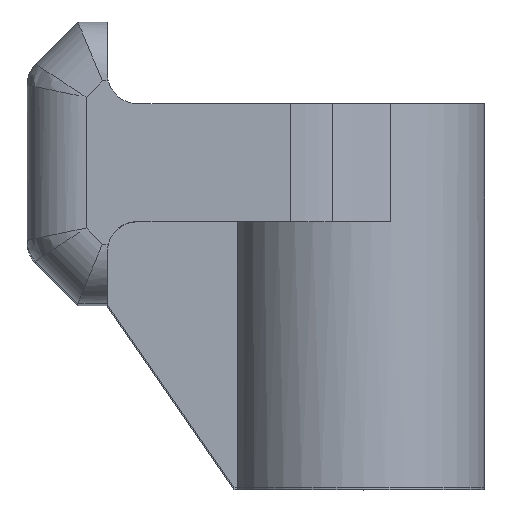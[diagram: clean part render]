
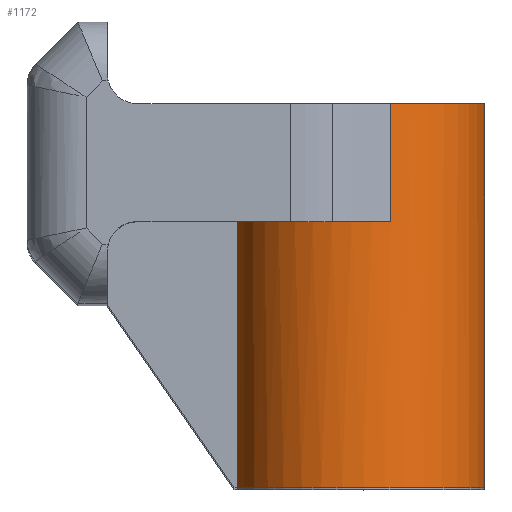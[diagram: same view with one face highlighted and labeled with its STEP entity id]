
A CAD part, top view. The second image highlights one B-rep face of the part: STEP entity #1172.
In plain terms, the highlighted cylindrical face has radius 4.25 mm (diameter 8.5 mm), a partial arc.
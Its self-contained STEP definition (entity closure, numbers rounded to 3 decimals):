
#36=CYLINDRICAL_SURFACE('',#1260,4.25);
#67=CIRCLE('',#1252,4.25);
#73=CIRCLE('',#1261,4.25);
#74=CIRCLE('',#1262,4.25);
#75=CIRCLE('',#1263,4.25);
#112=FACE_OUTER_BOUND('',#182,.T.);
#182=EDGE_LOOP('',(#799,#800,#801,#802,#803,#804,#805,#806));
#261=LINE('',#1759,#381);
#263=LINE('',#1766,#383);
#264=LINE('',#1768,#384);
#265=LINE('',#1772,#385);
#381=VECTOR('',#1399,10.);
#383=VECTOR('',#1407,10.);
#384=VECTOR('',#1408,10.);
#385=VECTOR('',#1411,10.);
#497=VERTEX_POINT('',#1739);
#498=VERTEX_POINT('',#1741);
#504=VERTEX_POINT('',#1756);
#505=VERTEX_POINT('',#1758);
#507=VERTEX_POINT('',#1764);
#508=VERTEX_POINT('',#1767);
#509=VERTEX_POINT('',#1769);
#510=VERTEX_POINT('',#1771);
#611=EDGE_CURVE('',#498,#497,#67,.T.);
#618=EDGE_CURVE('',#504,#505,#261,.T.);
#621=EDGE_CURVE('',#507,#504,#73,.T.);
#622=EDGE_CURVE('',#507,#497,#263,.T.);
#623=EDGE_CURVE('',#498,#508,#264,.T.);
#624=EDGE_CURVE('',#509,#508,#74,.T.);
#625=EDGE_CURVE('',#510,#509,#265,.T.);
#626=EDGE_CURVE('',#510,#505,#75,.T.);
#799=ORIENTED_EDGE('',*,*,#618,.F.);
#800=ORIENTED_EDGE('',*,*,#621,.F.);
#801=ORIENTED_EDGE('',*,*,#622,.T.);
#802=ORIENTED_EDGE('',*,*,#611,.F.);
#803=ORIENTED_EDGE('',*,*,#623,.T.);
#804=ORIENTED_EDGE('',*,*,#624,.F.);
#805=ORIENTED_EDGE('',*,*,#625,.F.);
#806=ORIENTED_EDGE('',*,*,#626,.T.);
#1172=ADVANCED_FACE('',(#112),#36,.T.);
#1252=AXIS2_PLACEMENT_3D('',#1743,#1383,#1384);
#1260=AXIS2_PLACEMENT_3D('',#1763,#1403,#1404);
#1261=AXIS2_PLACEMENT_3D('',#1765,#1405,#1406);
#1262=AXIS2_PLACEMENT_3D('',#1770,#1409,#1410);
#1263=AXIS2_PLACEMENT_3D('',#1773,#1412,#1413);
#1383=DIRECTION('center_axis',(0.,-1.,0.));
#1384=DIRECTION('ref_axis',(1.,0.,0.));
#1399=DIRECTION('',(0.,1.,0.));
#1403=DIRECTION('center_axis',(0.,-1.,0.));
#1404=DIRECTION('ref_axis',(1.,0.,0.));
#1405=DIRECTION('center_axis',(0.,1.,0.));
#1406=DIRECTION('ref_axis',(1.,0.,0.));
#1407=DIRECTION('',(0.,-1.,0.));
#1408=DIRECTION('',(0.,1.,0.));
#1409=DIRECTION('center_axis',(0.,1.,0.));
#1410=DIRECTION('ref_axis',(1.,0.,0.));
#1411=DIRECTION('',(0.,-1.,0.));
#1412=DIRECTION('center_axis',(0.,-1.,0.));
#1413=DIRECTION('ref_axis',(1.,0.,0.));
#1739=CARTESIAN_POINT('',(15.869,-11.,-4.));
#1741=CARTESIAN_POINT('',(15.869,-11.,-6.));
#1743=CARTESIAN_POINT('Origin',(20.,-11.,-5.));
#1756=CARTESIAN_POINT('',(21.06,-2.,-0.884));
#1758=CARTESIAN_POINT('',(21.06,2.,-0.884));
#1759=CARTESIAN_POINT('',(21.06,-2.,-0.884));
#1763=CARTESIAN_POINT('Origin',(20.,-2.,-5.));
#1764=CARTESIAN_POINT('',(15.869,-2.,-4.));
#1765=CARTESIAN_POINT('Origin',(20.,-2.,-5.));
#1766=CARTESIAN_POINT('',(15.869,-2.,-4.));
#1767=CARTESIAN_POINT('',(15.869,-2.,-6.));
#1768=CARTESIAN_POINT('',(15.869,-2.,-6.));
#1769=CARTESIAN_POINT('',(23.456,-2.,-7.474));
#1770=CARTESIAN_POINT('Origin',(20.,-2.,-5.));
#1771=CARTESIAN_POINT('',(23.456,2.,-7.474));
#1772=CARTESIAN_POINT('',(23.456,-2.,-7.474));
#1773=CARTESIAN_POINT('Origin',(20.,2.,-5.));
